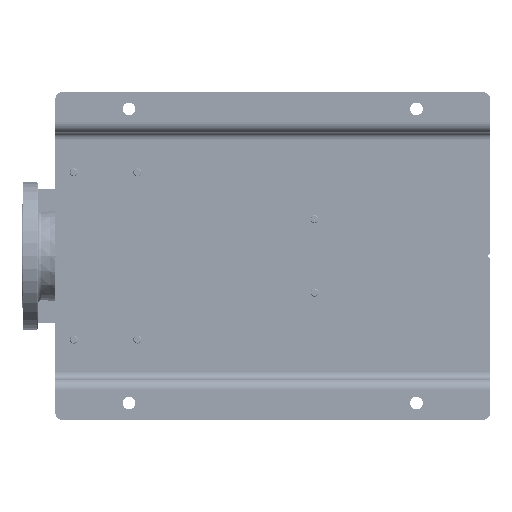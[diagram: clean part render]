
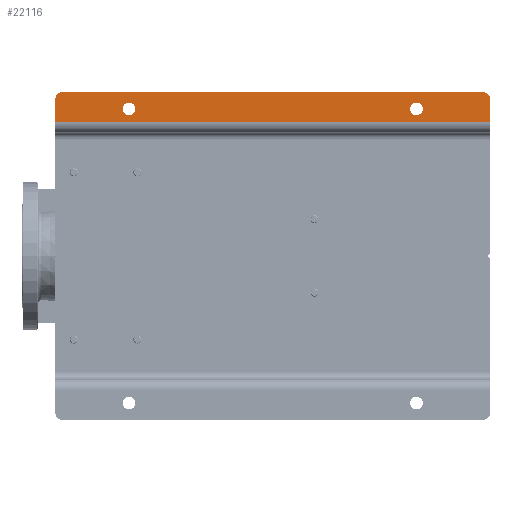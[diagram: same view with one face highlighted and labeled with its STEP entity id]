
A CAD part, front view. The second image highlights one B-rep face of the part: STEP entity #22116.
In plain terms, the highlighted planar face has unit normal (0, -1, 0).
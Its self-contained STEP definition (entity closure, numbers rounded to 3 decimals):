
#1039 = FACE_BOUND ( 'NONE', #36377, .T. ) ;
#1372 = CARTESIAN_POINT ( 'NONE',  ( 445., 0., -650. ) ) ;
#1408 = AXIS2_PLACEMENT_3D ( 'NONE', #181448, #32891, #34794 ) ;
#5296 = ORIENTED_EDGE ( 'NONE', *, *, #175170, .T. ) ;
#7832 = CARTESIAN_POINT ( 'NONE',  ( 429., 0., 0. ) ) ;
#10652 = ORIENTED_EDGE ( 'NONE', *, *, #69459, .F. ) ;
#12801 = DIRECTION ( 'NONE',  ( 0., -1., 0. ) ) ;
#21385 = CIRCLE ( 'NONE', #118227, 9.5 ) ;
#22116 = ADVANCED_FACE ( 'NONE', ( #164310, #1039, #44086 ), #89972, .T. ) ;
#22502 = LINE ( 'NONE', #7832, #165986 ) ;
#22725 = CIRCLE ( 'NONE', #57047, 10. ) ;
#23443 = LINE ( 'NONE', #162861, #190915 ) ;
#26089 = ORIENTED_EDGE ( 'NONE', *, *, #182739, .T. ) ;
#28431 = VERTEX_POINT ( 'NONE', #179780 ) ;
#28602 = VERTEX_POINT ( 'NONE', #74911 ) ;
#28741 = EDGE_CURVE ( 'NONE', #28431, #85224, #179326, .T. ) ;
#32891 = DIRECTION ( 'NONE',  ( 0., 1., 0. ) ) ;
#34794 = DIRECTION ( 'NONE',  ( 0., 0., -1. ) ) ;
#35789 = DIRECTION ( 'NONE',  ( 0., 0., -1. ) ) ;
#36377 = EDGE_LOOP ( 'NONE', ( #5296, #181464 ) ) ;
#38686 = CARTESIAN_POINT ( 'NONE',  ( 465., 0., -540. ) ) ;
#38845 = VERTEX_POINT ( 'NONE', #178752 ) ;
#39240 = CARTESIAN_POINT ( 'NONE',  ( 455.5, 0., -110. ) ) ;
#42167 = DIRECTION ( 'NONE',  ( 0., 0., -1. ) ) ;
#42259 = VERTEX_POINT ( 'NONE', #137713 ) ;
#44086 = FACE_OUTER_BOUND ( 'NONE', #144766, .T. ) ;
#44956 = AXIS2_PLACEMENT_3D ( 'NONE', #38686, #97308, #35789 ) ;
#55951 = CIRCLE ( 'NONE', #80908, 10. ) ;
#57047 = AXIS2_PLACEMENT_3D ( 'NONE', #95799, #155418, #83068 ) ;
#57713 = VERTEX_POINT ( 'NONE', #107184 ) ;
#61024 = DIRECTION ( 'NONE',  ( 0., 0., -1. ) ) ;
#66386 = ORIENTED_EDGE ( 'NONE', *, *, #108780, .T. ) ;
#67081 = DIRECTION ( 'NONE',  ( 0., 1., 0. ) ) ;
#69459 = EDGE_CURVE ( 'NONE', #83683, #57713, #22502, .T. ) ;
#74329 = VERTEX_POINT ( 'NONE', #151078 ) ;
#74911 = CARTESIAN_POINT ( 'NONE',  ( 474.5, 0., -540. ) ) ;
#76907 = AXIS2_PLACEMENT_3D ( 'NONE', #176383, #190071, #86451 ) ;
#80908 = AXIS2_PLACEMENT_3D ( 'NONE', #125622, #129482, #140265 ) ;
#82557 = EDGE_CURVE ( 'NONE', #42259, #74329, #23443, .T. ) ;
#83068 = DIRECTION ( 'NONE',  ( 0., 0., -1. ) ) ;
#83495 = CARTESIAN_POINT ( 'NONE',  ( 490., 0., -10. ) ) ;
#83683 = VERTEX_POINT ( 'NONE', #117482 ) ;
#85224 = VERTEX_POINT ( 'NONE', #39240 ) ;
#86451 = DIRECTION ( 'NONE',  ( 0., 0., -1. ) ) ;
#88850 = EDGE_CURVE ( 'NONE', #85224, #28431, #21385, .T. ) ;
#89972 = PLANE ( 'NONE',  #125473 ) ;
#91181 = CARTESIAN_POINT ( 'NONE',  ( 490., 0., -650. ) ) ;
#93281 = EDGE_LOOP ( 'NONE', ( #176190, #117502 ) ) ;
#95799 = CARTESIAN_POINT ( 'NONE',  ( 480., 0., -640. ) ) ;
#97308 = DIRECTION ( 'NONE',  ( 0., 1., 0. ) ) ;
#101608 = EDGE_CURVE ( 'NONE', #28602, #38845, #104218, .T. ) ;
#104218 = CIRCLE ( 'NONE', #44956, 9.5 ) ;
#107184 = CARTESIAN_POINT ( 'NONE',  ( 480., 0., 0. ) ) ;
#108780 = EDGE_CURVE ( 'NONE', #83683, #42259, #167509, .T. ) ;
#111079 = DIRECTION ( 'NONE',  ( 0., 0., -1. ) ) ;
#112355 = DIRECTION ( 'NONE',  ( 0., 0., 1. ) ) ;
#117482 = CARTESIAN_POINT ( 'NONE',  ( 445., 0., 0. ) ) ;
#117502 = ORIENTED_EDGE ( 'NONE', *, *, #28741, .T. ) ;
#118227 = AXIS2_PLACEMENT_3D ( 'NONE', #122846, #67081, #111079 ) ;
#118801 = VERTEX_POINT ( 'NONE', #168578 ) ;
#120545 = LINE ( 'NONE', #91181, #169089 ) ;
#121944 = EDGE_CURVE ( 'NONE', #118801, #171473, #120545, .T. ) ;
#122846 = CARTESIAN_POINT ( 'NONE',  ( 465., 0., -110. ) ) ;
#123232 = EDGE_CURVE ( 'NONE', #74329, #118801, #22725, .T. ) ;
#125473 = AXIS2_PLACEMENT_3D ( 'NONE', #149615, #12801, #42167 ) ;
#125622 = CARTESIAN_POINT ( 'NONE',  ( 480., 0., -10. ) ) ;
#126138 = DIRECTION ( 'NONE',  ( 1., 0., 0. ) ) ;
#129482 = DIRECTION ( 'NONE',  ( 0., -1., 0. ) ) ;
#137713 = CARTESIAN_POINT ( 'NONE',  ( 445., 0., -650. ) ) ;
#139837 = ORIENTED_EDGE ( 'NONE', *, *, #82557, .T. ) ;
#140265 = DIRECTION ( 'NONE',  ( 0., 0., -1. ) ) ;
#142685 = DIRECTION ( 'NONE',  ( 1., 0., 0. ) ) ;
#144766 = EDGE_LOOP ( 'NONE', ( #10652, #66386, #139837, #186129, #149430, #26089 ) ) ;
#149430 = ORIENTED_EDGE ( 'NONE', *, *, #121944, .T. ) ;
#149615 = CARTESIAN_POINT ( 'NONE',  ( 429., 0., -650. ) ) ;
#151078 = CARTESIAN_POINT ( 'NONE',  ( 480., 0., -650. ) ) ;
#155418 = DIRECTION ( 'NONE',  ( 0., -1., 0. ) ) ;
#162861 = CARTESIAN_POINT ( 'NONE',  ( 429., 0., -650. ) ) ;
#164310 = FACE_BOUND ( 'NONE', #93281, .T. ) ;
#165986 = VECTOR ( 'NONE', #126138, 1000. ) ;
#167509 = LINE ( 'NONE', #1372, #179904 ) ;
#168578 = CARTESIAN_POINT ( 'NONE',  ( 490., 0., -640. ) ) ;
#169089 = VECTOR ( 'NONE', #112355, 1000. ) ;
#171473 = VERTEX_POINT ( 'NONE', #83495 ) ;
#175170 = EDGE_CURVE ( 'NONE', #38845, #28602, #183097, .T. ) ;
#176190 = ORIENTED_EDGE ( 'NONE', *, *, #88850, .T. ) ;
#176383 = CARTESIAN_POINT ( 'NONE',  ( 465., 0., -540. ) ) ;
#178752 = CARTESIAN_POINT ( 'NONE',  ( 455.5, 0., -540. ) ) ;
#179326 = CIRCLE ( 'NONE', #1408, 9.5 ) ;
#179780 = CARTESIAN_POINT ( 'NONE',  ( 474.5, 0., -110. ) ) ;
#179904 = VECTOR ( 'NONE', #61024, 1000. ) ;
#181448 = CARTESIAN_POINT ( 'NONE',  ( 465., 0., -110. ) ) ;
#181464 = ORIENTED_EDGE ( 'NONE', *, *, #101608, .T. ) ;
#182739 = EDGE_CURVE ( 'NONE', #171473, #57713, #55951, .T. ) ;
#183097 = CIRCLE ( 'NONE', #76907, 9.5 ) ;
#186129 = ORIENTED_EDGE ( 'NONE', *, *, #123232, .T. ) ;
#190071 = DIRECTION ( 'NONE',  ( 0., 1., 0. ) ) ;
#190915 = VECTOR ( 'NONE', #142685, 1000. ) ;
